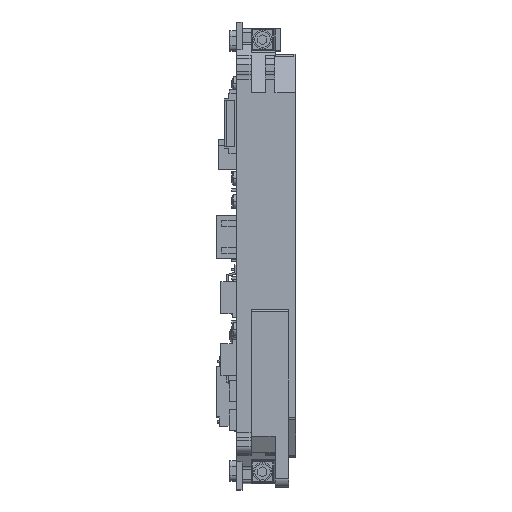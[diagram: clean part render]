
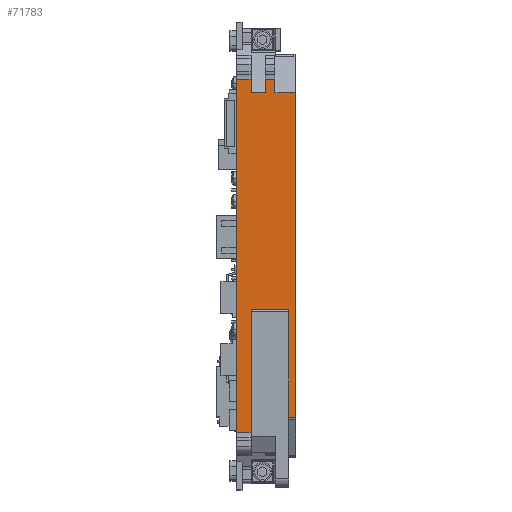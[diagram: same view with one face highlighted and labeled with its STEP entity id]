
A CAD part, top view. The second image highlights one B-rep face of the part: STEP entity #71783.
In plain terms, the highlighted planar face has unit normal (0, 0, 1).
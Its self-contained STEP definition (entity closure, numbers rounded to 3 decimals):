
#4857 = VECTOR ( 'NONE', #6972, 1000. ) ;
#4881 = VECTOR ( 'NONE', #7036, 1000. ) ;
#4935 = VECTOR ( 'NONE', #7146, 1000. ) ;
#4948 = VECTOR ( 'NONE', #7176, 1000. ) ;
#4956 = VECTOR ( 'NONE', #7191, 1000. ) ;
#4979 = VECTOR ( 'NONE', #7270, 1000. ) ;
#4981 = VECTOR ( 'NONE', #7247, 1000. ) ;
#4996 = VECTOR ( 'NONE', #7285, 1000. ) ;
#5003 = VECTOR ( 'NONE', #7293, 1000. ) ;
#5037 = VECTOR ( 'NONE', #7380, 1000. ) ;
#5041 = VECTOR ( 'NONE', #7383, 1000. ) ;
#5051 = VECTOR ( 'NONE', #7410, 1000. ) ;
#5060 = VECTOR ( 'NONE', #7431, 1000. ) ;
#5064 = VECTOR ( 'NONE', #7440, 1000. ) ;
#5097 = VECTOR ( 'NONE', #7596, 1000. ) ;
#5123 = VECTOR ( 'NONE', #7587, 1000. ) ;
#6969 = LINE ( 'NONE', #6971, #4857 ) ;
#6971 = CARTESIAN_POINT ( 'NONE',  ( -118.97, -41.979, 45. ) ) ;
#6972 = DIRECTION ( 'NONE',  ( -1., 0., 0. ) ) ;
#7025 = CARTESIAN_POINT ( 'NONE',  ( -24.423, 56.167, 45. ) ) ;
#7031 = LINE ( 'NONE', #7025, #4881 ) ;
#7036 = DIRECTION ( 'NONE',  ( -1., 0., 0. ) ) ;
#7144 = LINE ( 'NONE', #7145, #4935 ) ;
#7145 = CARTESIAN_POINT ( 'NONE',  ( -118.97, -38., 45. ) ) ;
#7146 = DIRECTION ( 'NONE',  ( -1., 0., 0. ) ) ;
#7174 = LINE ( 'NONE', #7175, #4948 ) ;
#7175 = CARTESIAN_POINT ( 'NONE',  ( -0.8, 66.083, 45. ) ) ;
#7176 = DIRECTION ( 'NONE',  ( 0., 1., 0. ) ) ;
#7189 = LINE ( 'NONE', #7190, #4956 ) ;
#7190 = CARTESIAN_POINT ( 'NONE',  ( -118.97, -37.737, 45. ) ) ;
#7191 = DIRECTION ( 'NONE',  ( -1., 0., 0. ) ) ;
#7245 = LINE ( 'NONE', #7246, #4981 ) ;
#7246 = CARTESIAN_POINT ( 'NONE',  ( -118.97, 60.146, 45. ) ) ;
#7247 = DIRECTION ( 'NONE',  ( 1., 0., 0. ) ) ;
#7261 = CARTESIAN_POINT ( 'NONE',  ( -118.97, 60.146, 45. ) ) ;
#7266 = LINE ( 'NONE', #7261, #4979 ) ;
#7270 = DIRECTION ( 'NONE',  ( 1., 0., 0. ) ) ;
#7276 = CARTESIAN_POINT ( 'NONE',  ( 2., 66.083, 45. ) ) ;
#7281 = LINE ( 'NONE', #7276, #4996 ) ;
#7285 = DIRECTION ( 'NONE',  ( 0., -1., 0. ) ) ;
#7291 = LINE ( 'NONE', #7292, #5003 ) ;
#7292 = CARTESIAN_POINT ( 'NONE',  ( -4.9, 66.083, 45. ) ) ;
#7293 = DIRECTION ( 'NONE',  ( 0., -1., 0. ) ) ;
#7366 = CARTESIAN_POINT ( 'NONE',  ( -9.1, 66.083, 45. ) ) ;
#7376 = LINE ( 'NONE', #7366, #5037 ) ;
#7380 = DIRECTION ( 'NONE',  ( 0., 1., 0. ) ) ;
#7381 = LINE ( 'NONE', #7382, #5041 ) ;
#7382 = CARTESIAN_POINT ( 'NONE',  ( 2., 66.083, 45. ) ) ;
#7383 = DIRECTION ( 'NONE',  ( 0., -1., 0. ) ) ;
#7408 = LINE ( 'NONE', #7409, #5051 ) ;
#7409 = CARTESIAN_POINT ( 'NONE',  ( -4.9, 66.083, 45. ) ) ;
#7410 = DIRECTION ( 'NONE',  ( 0., -1., 0. ) ) ;
#7418 = CARTESIAN_POINT ( 'NONE',  ( 8., 0., 45. ) ) ;
#7424 = LINE ( 'NONE', #7418, #5060 ) ;
#7431 = DIRECTION ( 'NONE',  ( 0., -1., 0. ) ) ;
#7438 = LINE ( 'NONE', #7439, #5064 ) ;
#7439 = CARTESIAN_POINT ( 'NONE',  ( -118.97, -41.979, 45. ) ) ;
#7440 = DIRECTION ( 'NONE',  ( -1., 0., 0. ) ) ;
#7574 = LINE ( 'NONE', #7595, #5097 ) ;
#7585 = LINE ( 'NONE', #7586, #5123 ) ;
#7586 = CARTESIAN_POINT ( 'NONE',  ( -0.8, 66.083, 45. ) ) ;
#7587 = DIRECTION ( 'NONE',  ( 0., 1., 0. ) ) ;
#7595 = CARTESIAN_POINT ( 'NONE',  ( -24.423, 56.167, 45. ) ) ;
#7596 = DIRECTION ( 'NONE',  ( -1., 0., 0. ) ) ;
#21643 = ORIENTED_EDGE ( 'NONE', *, *, #31376, .F. ) ;
#21646 = ORIENTED_EDGE ( 'NONE', *, *, #31332, .F. ) ;
#21649 = ORIENTED_EDGE ( 'NONE', *, *, #31396, .F. ) ;
#21697 = ORIENTED_EDGE ( 'NONE', *, *, #31261, .T. ) ;
#21699 = ORIENTED_EDGE ( 'NONE', *, *, #31313, .F. ) ;
#21703 = ORIENTED_EDGE ( 'NONE', *, *, #31298, .F. ) ;
#21708 = ORIENTED_EDGE ( 'NONE', *, *, #31347, .F. ) ;
#21713 = ORIENTED_EDGE ( 'NONE', *, *, #31393, .F. ) ;
#21743 = ORIENTED_EDGE ( 'NONE', *, *, #31377, .F. ) ;
#21746 = ORIENTED_EDGE ( 'NONE', *, *, #31339, .F. ) ;
#21749 = ORIENTED_EDGE ( 'NONE', *, *, #31445, .F. ) ;
#21752 = ORIENTED_EDGE ( 'NONE', *, *, #31448, .T. ) ;
#21754 = ORIENTED_EDGE ( 'NONE', *, *, #31386, .F. ) ;
#22031 = ORIENTED_EDGE ( 'NONE', *, *, #31344, .F. ) ;
#22078 = ORIENTED_EDGE ( 'NONE', *, *, #31240, .F. ) ;
#22437 = ORIENTED_EDGE ( 'NONE', *, *, #31308, .F. ) ;
#31240 = EDGE_CURVE ( 'NONE', #54358, #54389, #6969, .T. ) ;
#31261 = EDGE_CURVE ( 'NONE', #55874, #55930, #7031, .T. ) ;
#31298 = EDGE_CURVE ( 'NONE', #54391, #54414, #7144, .T. ) ;
#31308 = EDGE_CURVE ( 'NONE', #54389, #54391, #7174, .T. ) ;
#31313 = EDGE_CURVE ( 'NONE', #54438, #54396, #7189, .T. ) ;
#31332 = EDGE_CURVE ( 'NONE', #54239, #54384, #7245, .T. ) ;
#31339 = EDGE_CURVE ( 'NONE', #54403, #54440, #7266, .T. ) ;
#31344 = EDGE_CURVE ( 'NONE', #54396, #54358, #7281, .T. ) ;
#31347 = EDGE_CURVE ( 'NONE', #54414, #54412, #7291, .T. ) ;
#31376 = EDGE_CURVE ( 'NONE', #54407, #54239, #7376, .T. ) ;
#31377 = EDGE_CURVE ( 'NONE', #54440, #55930, #7381, .T. ) ;
#31386 = EDGE_CURVE ( 'NONE', #54384, #55932, #7408, .T. ) ;
#31393 = EDGE_CURVE ( 'NONE', #55874, #54438, #7424, .T. ) ;
#31396 = EDGE_CURVE ( 'NONE', #54412, #54407, #7438, .T. ) ;
#31445 = EDGE_CURVE ( 'NONE', #56073, #54403, #7585, .T. ) ;
#31448 = EDGE_CURVE ( 'NONE', #56073, #55932, #7574, .T. ) ;
#33113 = EDGE_LOOP ( 'NONE', ( #21699, #21713, #21697, #21743, #21746, #21749, #21752, #21754, #21646, #21643, #21649, #21708, #21703, #22437, #22078, #22031 ) ) ;
#54239 = VERTEX_POINT ( 'NONE', #70888 ) ;
#54358 = VERTEX_POINT ( 'NONE', #70956 ) ;
#54384 = VERTEX_POINT ( 'NONE', #70971 ) ;
#54389 = VERTEX_POINT ( 'NONE', #70974 ) ;
#54391 = VERTEX_POINT ( 'NONE', #70975 ) ;
#54396 = VERTEX_POINT ( 'NONE', #70978 ) ;
#54403 = VERTEX_POINT ( 'NONE', #70982 ) ;
#54407 = VERTEX_POINT ( 'NONE', #70984 ) ;
#54412 = VERTEX_POINT ( 'NONE', #70987 ) ;
#54414 = VERTEX_POINT ( 'NONE', #70988 ) ;
#54438 = VERTEX_POINT ( 'NONE', #71002 ) ;
#54440 = VERTEX_POINT ( 'NONE', #71003 ) ;
#55874 = VERTEX_POINT ( 'NONE', #71098 ) ;
#55930 = VERTEX_POINT ( 'NONE', #71116 ) ;
#55932 = VERTEX_POINT ( 'NONE', #71123 ) ;
#56073 = VERTEX_POINT ( 'NONE', #71154 ) ;
#70888 = CARTESIAN_POINT ( 'NONE',  ( -9.1, 60.146, 45. ) ) ;
#70956 = CARTESIAN_POINT ( 'NONE',  ( 2., -41.979, 45. ) ) ;
#70971 = CARTESIAN_POINT ( 'NONE',  ( -4.9, 60.146, 45. ) ) ;
#70974 = CARTESIAN_POINT ( 'NONE',  ( -0.8, -41.979, 45. ) ) ;
#70975 = CARTESIAN_POINT ( 'NONE',  ( -0.8, -38., 45. ) ) ;
#70978 = CARTESIAN_POINT ( 'NONE',  ( 2., -37.737, 45. ) ) ;
#70982 = CARTESIAN_POINT ( 'NONE',  ( -0.8, 60.146, 45. ) ) ;
#70984 = CARTESIAN_POINT ( 'NONE',  ( -9.1, -41.979, 45. ) ) ;
#70987 = CARTESIAN_POINT ( 'NONE',  ( -4.9, -41.979, 45. ) ) ;
#70988 = CARTESIAN_POINT ( 'NONE',  ( -4.9, -38., 45. ) ) ;
#71002 = CARTESIAN_POINT ( 'NONE',  ( 8., -37.737, 45. ) ) ;
#71003 = CARTESIAN_POINT ( 'NONE',  ( 2., 60.146, 45. ) ) ;
#71098 = CARTESIAN_POINT ( 'NONE',  ( 8., 56.167, 45. ) ) ;
#71116 = CARTESIAN_POINT ( 'NONE',  ( 2., 56.167, 45. ) ) ;
#71123 = CARTESIAN_POINT ( 'NONE',  ( -4.9, 56.167, 45. ) ) ;
#71154 = CARTESIAN_POINT ( 'NONE',  ( -0.8, 56.167, 45. ) ) ;
#71783 = ADVANCED_FACE ( 'NONE', ( #91723 ), #91724, .F. ) ;
#84944 = AXIS2_PLACEMENT_3D ( 'NONE', #91715, #91726, #91727 ) ;
#91715 = CARTESIAN_POINT ( 'NONE',  ( -118.97, 66.083, 45. ) ) ;
#91723 = FACE_OUTER_BOUND ( 'NONE', #33113, .T. ) ;
#91724 = PLANE ( 'NONE',  #84944 ) ;
#91726 = DIRECTION ( 'NONE',  ( 0., 0., -1. ) ) ;
#91727 = DIRECTION ( 'NONE',  ( -1., 0., 0. ) ) ;
